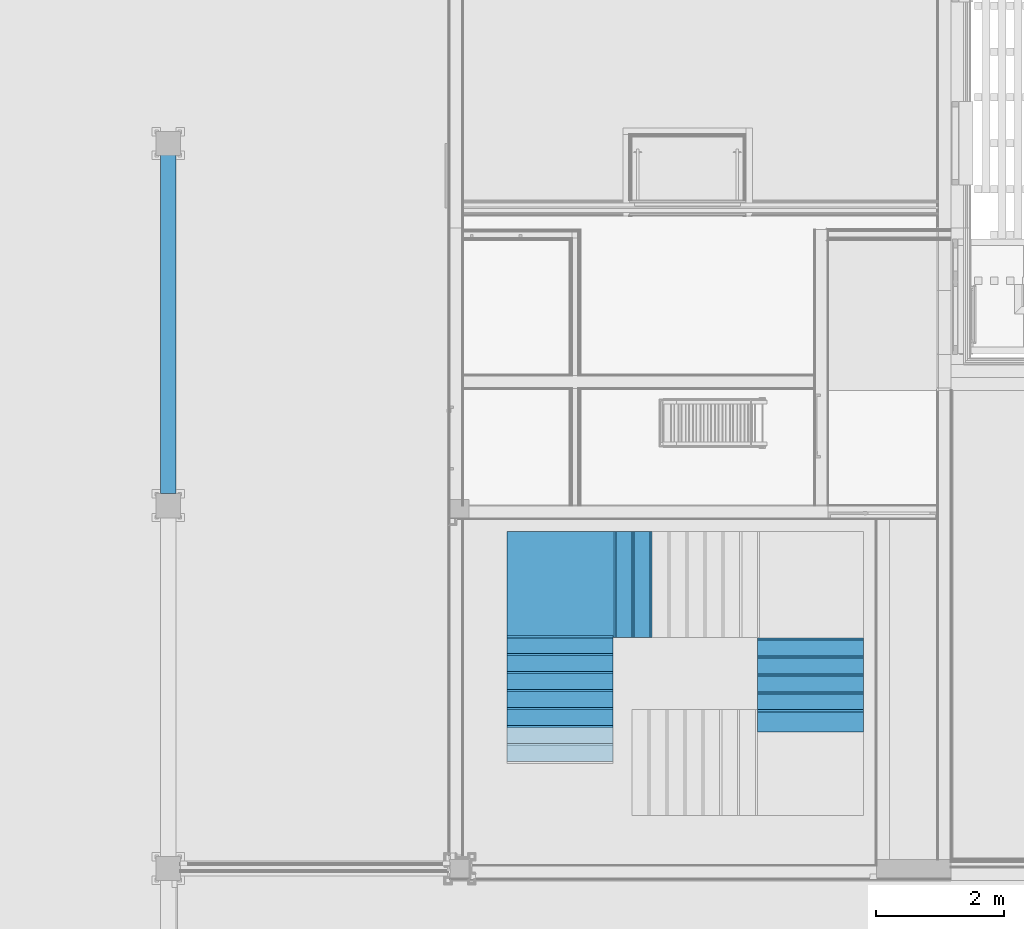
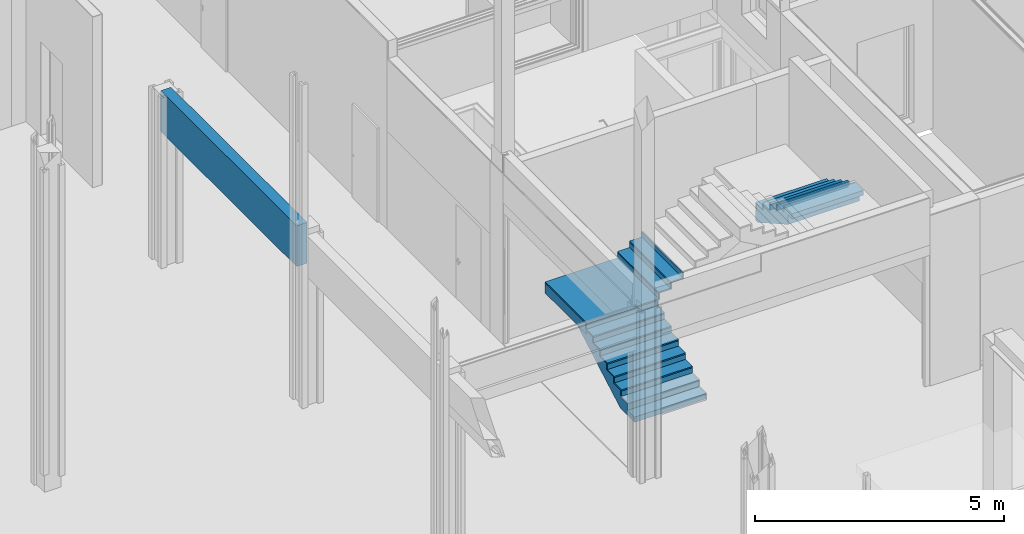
# One storey, part 82 of 260: 29 members, 1 beam, 1 element without a shape of its own.
"""IFC2X3 building model written with IfcOpenShell, lengths in millimetres."""

from ifc_helpers import new_model, entity, si_unit, converted_unit, derived_unit, money_unit, direction, frame, origin_with_axes, place, context, subcontext, project, spatial, faceted_brep, material, type_object, element, aggregate, save


model = new_model("IFC2X3")

# Units and contexts
model_context = context("Model", 3, precision=0.01, world=origin_with_axes(), true_north=direction((0.0, 1.0)))
body_context = subcontext(model_context, "Body", "Model", "MODEL_VIEW")
ifc_project = project(units=[si_unit("LENGTHUNIT", "METRE", prefix="MILLI"), si_unit("AREAUNIT", "SQUARE_METRE"), si_unit("VOLUMEUNIT", "CUBIC_METRE"), converted_unit("PLANEANGLEUNIT", "DEGREE", entity("IfcPlaneAngleMeasure", 0.0174532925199), si_unit("PLANEANGLEUNIT", "RADIAN"), dimensions=[0, 0, 0, 0, 0, 0, 0]), money_unit("EUR"), converted_unit("TIMEUNIT", "Year", entity("IfcTimeMeasure", 31556926.0), si_unit("TIMEUNIT", "SECOND"), dimensions=[0, 0, 1, 0, 0, 0, 0]), si_unit("MASSUNIT", "GRAM", prefix="KILO"), si_unit("THERMODYNAMICTEMPERATUREUNIT", "DEGREE_CELSIUS"), si_unit("LUMINOUSINTENSITYUNIT", "LUMEN"), si_unit("ENERGYUNIT", "JOULE", prefix="MEGA"), derived_unit("THERMALCONDUCTANCEUNIT", [(si_unit("POWERUNIT", "WATT"), 1), (si_unit("LENGTHUNIT", "METRE"), -1), (si_unit("THERMODYNAMICTEMPERATUREUNIT", "KELVIN"), -1)]), derived_unit("SPECIFICHEATCAPACITYUNIT", [(si_unit("ENERGYUNIT", "JOULE"), 1), (si_unit("MASSUNIT", "GRAM", prefix="KILO"), -1), (si_unit("THERMODYNAMICTEMPERATUREUNIT", "KELVIN"), -1)]), derived_unit("MASSDENSITYUNIT", [(si_unit("MASSUNIT", "GRAM", prefix="KILO"), 1), (si_unit("VOLUMEUNIT", "CUBIC_METRE"), -1)])], contexts=[model_context])

# Site, building, storey
site_placement = place(None, origin_with_axes())
site = spatial("IfcSite", under=ifc_project, at=site_placement, Name="Kolde pst 67a", CompositionType="ELEMENT")
building_placement = place(site_placement, origin_with_axes())
building = spatial("IfcBuilding", under=site, at=building_placement, Name="Riigigümnaasium", CompositionType="ELEMENT")
storey_placement = place(building_placement, origin_with_axes())
storey = spatial("IfcBuildingStorey", under=building, at=storey_placement, Name="1. korrus", CompositionType="ELEMENT", Elevation=0.0)

# Stair, members
stair_placement = place(storey_placement, frame((55074.9583238, 31162.4614213, 0.0), z_axis=(0.0, 0.0, 1.0), x_axis=(1.0, 0.0, 0.0)))
stair = element("IfcStair", 1, at=stair_placement, inside=storey, Name="TREPP", ShapeType="NOTDEFINED")
ifc_material_1 = material(Name="_KANDETARIND - raudbetoon C25/30 vastavalt EK osale")
member_type_1 = type_object("IfcMemberType", Name="IfcMember", PredefinedType="USERDEFINED")
member_1_placement = place(stair_placement, origin_with_axes())
member_1 = element("IfcMember", 2, at=member_1_placement, type_object=member_type_1, material=ifc_material_1, Name="TT KONSTRUKTSIOON - 015", ObjectType="Stair Structure", context=body_context, shape_type="Brep", body=[
    faceted_brep([(89.8423685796, -710.230620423, 0.0), (89.8423685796, -146.545943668, 0.0), (89.8423685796, -88.8972870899, 32.6581059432), (89.8423685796, 4.43604624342, 85.5316691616), (89.8423685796, 97.7693795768, 138.40523238), (89.8423685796, 191.10271291, 191.278795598), (89.8423685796, 284.436046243, 244.152358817), (89.8423685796, 377.769379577, 297.025922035), (89.8423685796, 471.10271291, 349.899485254), (89.8423685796, 564.436046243, 402.773048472), (89.8423685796, 657.769379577, 455.64661169), (89.8423685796, 751.10271291, 508.520174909), (89.8423685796, 844.436046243, 561.393738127), (89.8423685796, 937.769379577, 614.267301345), (89.8423685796, 1031.10271291, 667.140864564), (89.8423685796, 1124.43604624, 720.014427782), (89.8423656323, 1217.76937958, 772.887991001), (89.8423656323, 1595.66275198, 986.965517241), (89.8423656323, 1217.76937958, 986.965517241), (89.8423685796, 1217.76937958, 1078.34482759), (89.8423685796, 969.769379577, 1078.34482759), (89.8423685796, 969.769379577, 919.724137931), (89.8423685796, 689.769379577, 919.724137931), (89.8423685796, 689.769379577, 761.103448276), (89.8423685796, 409.769379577, 761.103448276), (89.8423685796, 409.769379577, 602.482758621), (89.8423685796, 129.769379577, 602.482758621), (89.8423685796, 129.769379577, 443.862068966), (89.8423685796, -150.230620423, 443.862068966), (89.8423685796, -150.230620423, 285.24137931), (89.8423685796, -430.230620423, 285.24137931), (89.8423685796, -430.230620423, 126.620689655), (89.8423685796, -710.230620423, 126.620689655), (-1558.12246234, -146.545943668, 0.0), (-1558.12246234, -710.230620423, 0.0), (-1558.12246234, -88.8972870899, 32.6581059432), (-1558.12246234, 4.43604624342, 85.5316691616), (-1558.12246234, 97.7693795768, 138.40523238), (-1558.12246234, 191.10271291, 191.278795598), (-1558.12246234, 284.436046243, 244.152358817), (-1558.12246234, 377.769379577, 297.025922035), (-1558.12246234, 471.10271291, 349.899485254), (-1558.12246234, 564.436046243, 402.773048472), (-1558.12246234, 657.769379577, 455.64661169), (-1558.12246234, 751.10271291, 508.520174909), (-1558.12246234, 844.436046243, 561.393738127), (-1558.12246234, 937.769379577, 614.267301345), (-1558.12246234, 1031.10271291, 667.140864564), (-1558.12246234, 1124.43604624, 720.014427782), (-1558.12246234, 1217.76937958, 772.887991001), (-1558.12246234, 1595.66275198, 986.965517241), (-1558.12246234, 1217.76937958, 986.965517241), (-1558.12246234, 1217.76937958, 1078.34482759), (-1558.12246234, 969.769379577, 1078.34482759), (-1558.12246234, 969.769379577, 919.724137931), (-1558.12246234, 689.769379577, 919.724137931), (-1558.12246234, 689.769379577, 761.103448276), (-1558.12246234, 409.769379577, 761.103448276), (-1558.12246234, 409.769379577, 602.482758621), (-1558.12246234, 129.769379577, 602.482758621), (-1558.12246234, 129.769379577, 443.862068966), (-1558.12246234, -150.230620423, 443.862068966), (-1558.12246234, -150.230620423, 285.24137931), (-1558.12246234, -430.230620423, 285.24137931), (-1558.12246234, -430.230620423, 126.620689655), (-1558.12246234, -710.230620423, 126.620689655)], [[[0, 1, 2, 3, 4, 5, 6, 7, 8, 9, 10, 11, 12, 13, 14, 15, 16, 17, 18, 19, 20, 21, 22, 23, 24, 25, 26, 27, 28, 29, 30, 31, 32]], [[33, 1, 0, 34]], [[1, 33, 35, 2]], [[35, 36, 3, 2]], [[36, 37, 4, 3]], [[37, 38, 5, 4]], [[38, 39, 6, 5]], [[39, 40, 7, 6]], [[40, 41, 8, 7]], [[41, 42, 9, 8]], [[42, 43, 10, 9]], [[43, 44, 11, 10]], [[44, 45, 12, 11]], [[45, 46, 13, 12]], [[46, 47, 14, 13]], [[47, 48, 15, 14]], [[17, 16, 15, 48, 49, 50]], [[50, 51, 18, 17]], [[19, 18, 51, 52]], [[20, 19, 52, 53]], [[20, 53, 54, 21]], [[54, 55, 22, 21]], [[22, 55, 56, 23]], [[56, 57, 24, 23]], [[24, 57, 58, 25]], [[58, 59, 26, 25]], [[26, 59, 60, 27]], [[60, 61, 28, 27]], [[28, 61, 62, 29]], [[62, 63, 30, 29]], [[30, 63, 64, 31]], [[64, 65, 32, 31]], [[34, 0, 32, 65]], [[33, 34, 65, 64, 63, 62, 61, 60, 59, 58, 57, 56, 55, 54, 53, 52, 51, 50, 49, 48, 47, 46, 45, 44, 43, 42, 41, 40, 39, 38, 37, 36, 35]]]),
])
member_2_placement = place(stair_placement, origin_with_axes())
member_2 = element("IfcMember", 3, at=member_2_placement, type_object=member_type_1, material=ifc_material_1, Name="TM KONSTRUKTSIOON - 012", ObjectType="Stair Structure", context=body_context, shape_type="Brep", body=[
    faceted_brep([(110.025712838, 1222.51928989, 1236.96551724), (110.025712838, 2872.51929065, 1236.96551724), (-1558.12246234, 2872.51929065, 1236.96551724), (-1558.12246234, 1249.76938018, 1236.96551724), (89.8423548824, 1249.76938018, 1236.96551724), (89.8423560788, 1222.51928989, 1236.96551724), (110.025712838, 2872.51929065, 986.965517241), (110.025712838, 1222.51928989, 986.965517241), (-1558.12246234, 2872.51929065, 986.965517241), (-1558.12246234, 1217.76937958, 1078.34482759), (-1558.12246234, 1249.76938018, 1078.34482759), (-1558.12246234, 1217.76937958, 986.965517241), (89.8423548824, 1249.76938018, 1078.34482759), (89.8423560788, 1222.51928989, 1078.34482759), (89.8423656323, 1222.51928989, 986.965517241), (89.8423656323, 1217.76937958, 986.965517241), (89.8423562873, 1217.76937958, 1078.34482759)], [[[0, 1, 2, 3, 4, 5]], [[6, 1, 0, 7]], [[1, 6, 8, 2]], [[9, 10, 3, 2, 8, 11]], [[12, 4, 3, 10]], [[13, 5, 4, 12]], [[7, 0, 5, 13, 14]], [[6, 7, 14, 15, 11, 8]], [[9, 16, 13, 12, 10]], [[15, 16, 9, 11]], [[14, 13, 16, 15]]]),
])
member_3_placement = place(stair_placement, origin_with_axes())
member_3 = element("IfcMember", 4, at=member_3_placement, type_object=member_type_1, material=ifc_material_1, Name="TT KONSTRUKTSIOON - 017", ObjectType="Stair Structure", context=body_context, shape_type="Brep", body=[
    faceted_brep([(4000.02571284, 343.0, 3140.4137931), (2350.02571284, 343.0, 3140.4137931), (2350.02571284, 343.0, 3299.03448276), (4000.02571284, 343.0, 3299.03448276), (4000.02571284, 623.0, 3140.4137931), (2350.02571284, 623.0, 3140.4137931), (2350.02570096, 94.9999981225, 3299.03448276), (2350.02571284, 623.0, 2981.79310345), (2350.02571284, 903.0, 2981.79310345), (2350.02571284, 903.0, 2823.17241379), (2350.02571284, 1183.0, 2823.17241379), (2350.02571284, 1183.0, 2664.55172414), (2350.02571284, 1215.0, 2664.55172414), (2350.02571284, 1215.0, 2414.55172414), (2350.02571284, 1117.10662759, 2414.55172414), (2350.02571284, 1028.33333333, 2464.84201399), (2350.02571284, 935.0, 2517.71557721), (2350.02571284, 841.666666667, 2570.58914043), (2350.02571284, 748.333333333, 2623.46270364), (2350.02571284, 655.0, 2676.33626686), (2350.02571284, 561.666666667, 2729.20983008), (2350.02571284, 468.333333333, 2782.0833933), (2350.02571284, 375.0, 2834.95695652), (2350.02571284, 281.666666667, 2887.83051974), (2350.02571284, 188.333333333, 2940.70408295), (2350.02571472, 94.9999981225, 2993.57764724), (2350.02571472, -95.0000018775, 3101.21311522), (2350.02570967, -95.0000018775, 3337.65517241), (2350.02571472, -255.000008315, 3337.65517241), (2350.02571472, -255.000008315, 3457.65517241), (2350.02569961, 63.0000026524, 3457.65517241), (2350.02569961, 63.0000026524, 3299.03448276), (4000.02571685, 94.9999981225, 3299.03448276), (4000.02571731, 63.0000026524, 3299.03448276), (4000.02571284, 94.9999981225, 2993.57764724), (4000.02571284, 188.333333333, 2940.70408295), (4000.02571284, 281.666666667, 2887.83051974), (4000.02571284, 375.0, 2834.95695652), (4000.02571284, 468.333333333, 2782.0833933), (4000.02571284, 561.666666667, 2729.20983008), (4000.02571284, 655.0, 2676.33626686), (4000.02571284, 748.333333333, 2623.46270364), (4000.02571284, 841.666666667, 2570.58914043), (4000.02571284, 935.0, 2517.71557721), (4000.02571284, 1028.33333333, 2464.84201399), (4000.02571284, 1117.10662759, 2414.55172414), (4000.02571284, 1215.0, 2414.55172414), (4000.02571284, 1215.0, 2664.55172414), (4000.02571284, 1183.0, 2664.55172414), (4000.02571284, 1183.0, 2823.17241379), (4000.02571284, 903.0, 2823.17241379), (4000.02571284, 903.0, 2981.79310345), (4000.02571284, 623.0, 2981.79310345), (4000.02571731, 63.0000026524, 3457.65517241), (4000.02571284, -255.000008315, 3457.65517241), (4000.02571284, -255.000008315, 3337.65517241), (4000.02571433, -95.0000018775, 3337.65517241), (4000.02571284, -95.0000018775, 3101.21311522)], [[[0, 1, 2, 3]], [[0, 4, 5, 1]], [[6, 2, 1, 5, 7, 8, 9, 10, 11, 12, 13, 14, 15, 16, 17, 18, 19, 20, 21, 22, 23, 24, 25, 26, 27, 28, 29, 30, 31]], [[32, 3, 2, 6, 31, 33]], [[34, 35, 36, 37, 38, 39, 40, 41, 42, 43, 44, 45, 46, 47, 48, 49, 50, 51, 52, 4, 0, 3, 32, 33, 53, 54, 55, 56, 57]], [[52, 7, 5, 4]], [[52, 51, 8, 7]], [[50, 9, 8, 51]], [[50, 49, 10, 9]], [[48, 11, 10, 49]], [[12, 11, 48, 47]], [[46, 13, 12, 47]], [[13, 46, 45, 14]], [[14, 45, 44, 15]], [[15, 44, 43, 16]], [[16, 43, 42, 17]], [[17, 42, 41, 18]], [[18, 41, 40, 19]], [[19, 40, 39, 20]], [[20, 39, 38, 21]], [[21, 38, 37, 22]], [[22, 37, 36, 23]], [[23, 36, 35, 24]], [[25, 24, 35, 34, 57, 26]], [[26, 57, 56, 27]], [[27, 56, 55, 28]], [[29, 28, 55, 54]], [[29, 54, 53, 30]], [[33, 31, 30, 53]]]),
])
ifc_material_2 = material(Name="_VIIMISTLUSKIHT - viimistlus vastavalt SA osale")
member_type_2 = type_object("IfcMemberType", Name="IfcMember", PredefinedType="USERDEFINED")
member_4_placement = place(stair_placement, frame((-735.15763142, -182.230620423, 443.862068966), z_axis=(0.0, 0.0, 1.0), x_axis=(1.0, 0.0, 0.0)))
member_4 = element("IfcMember", 5, at=member_4_placement, type_object=member_type_2, material=ifc_material_2, Name="TV TÕUS - 112", ObjectType="Stair Riser", context=body_context, shape_type="Brep", body=[
    faceted_brep([(825.0, 0.0, 0.0), (825.0, 32.0, 0.0), (-822.964830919, 32.0, 0.0), (-822.964830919, 0.0, 0.0), (825.0, 0.0, -126.620689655), (825.0, 32.0, -126.620689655), (-822.964830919, 32.0, -126.620689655), (-822.964830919, 0.0, -126.620689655)], [[[0, 1, 2, 3]], [[0, 4, 5, 1]], [[1, 5, 6, 2]], [[3, 2, 6, 7]], [[4, 0, 3, 7]], [[5, 4, 7, 6]]]),
])
member_5_placement = place(stair_placement, frame((-735.15763142, 97.7693795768, 602.482758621), z_axis=(0.0, 0.0, 1.0), x_axis=(1.0, 0.0, 0.0)))
member_5 = element("IfcMember", 6, at=member_5_placement, type_object=member_type_2, material=ifc_material_2, Name="TV TÕUS - 113", ObjectType="Stair Riser", context=body_context, shape_type="Brep", body=[
    faceted_brep([(825.0, 0.0, 0.0), (825.0, 32.0, 0.0), (-822.964830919, 32.0, 0.0), (-822.964830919, 0.0, 0.0), (825.0, 0.0, -126.620689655), (825.0, 32.0, -126.620689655), (-822.964830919, 32.0, -126.620689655), (-822.964830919, 0.0, -126.620689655)], [[[0, 1, 2, 3]], [[0, 4, 5, 1]], [[1, 5, 6, 2]], [[3, 2, 6, 7]], [[4, 0, 3, 7]], [[5, 4, 7, 6]]]),
])
member_6_placement = place(stair_placement, frame((-735.15763142, 377.769379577, 761.103448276), z_axis=(0.0, 0.0, 1.0), x_axis=(1.0, 0.0, 0.0)))
member_6 = element("IfcMember", 7, at=member_6_placement, type_object=member_type_2, material=ifc_material_2, Name="TV TÕUS - 114", ObjectType="Stair Riser", context=body_context, shape_type="Brep", body=[
    faceted_brep([(825.0, 0.0, 0.0), (825.0, 32.0, 0.0), (-822.964830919, 32.0, 0.0), (-822.964830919, 0.0, 0.0), (825.0, 0.0, -126.620689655), (825.0, 32.0, -126.620689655), (-822.964830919, 32.0, -126.620689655), (-822.964830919, 0.0, -126.620689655)], [[[0, 1, 2, 3]], [[0, 4, 5, 1]], [[1, 5, 6, 2]], [[3, 2, 6, 7]], [[4, 0, 3, 7]], [[5, 4, 7, 6]]]),
])
member_7_placement = place(stair_placement, frame((-735.15763142, 657.769379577, 919.724137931), z_axis=(0.0, 0.0, 1.0), x_axis=(1.0, 0.0, 0.0)))
member_7 = element("IfcMember", 8, at=member_7_placement, type_object=member_type_2, material=ifc_material_2, Name="TV TÕUS - 115", ObjectType="Stair Riser", context=body_context, shape_type="Brep", body=[
    faceted_brep([(825.0, 0.0, 0.0), (825.0, 32.0, 0.0), (-822.964830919, 32.0, 0.0), (-822.964830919, 0.0, 0.0), (825.0, 0.0, -126.620689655), (825.0, 32.0, -126.620689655), (-822.964830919, 32.0, -126.620689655), (-822.964830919, 0.0, -126.620689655)], [[[0, 1, 2, 3]], [[0, 4, 5, 1]], [[1, 5, 6, 2]], [[3, 2, 6, 7]], [[4, 0, 3, 7]], [[5, 4, 7, 6]]]),
])
member_8_placement = place(stair_placement, frame((-735.15763142, 937.769379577, 1078.34482759), z_axis=(0.0, 0.0, 1.0), x_axis=(1.0, 0.0, 0.0)))
member_8 = element("IfcMember", 9, at=member_8_placement, type_object=member_type_2, material=ifc_material_2, Name="TV TÕUS - 116", ObjectType="Stair Riser", context=body_context, shape_type="Brep", body=[
    faceted_brep([(825.0, 0.0, 0.0), (825.0, 32.0, 0.0), (-822.964830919, 32.0, 0.0), (-822.964830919, 0.0, 0.0), (825.0, 0.0, -126.620689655), (825.0, 32.0, -126.620689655), (-822.964830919, 32.0, -126.620689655), (-822.964830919, 0.0, -126.620689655)], [[[0, 1, 2, 3]], [[0, 4, 5, 1]], [[1, 5, 6, 2]], [[3, 2, 6, 7]], [[4, 0, 3, 7]], [[5, 4, 7, 6]]]),
])
member_9_placement = place(stair_placement, frame((-735.15763142, 1217.76937958, 1236.96551724), z_axis=(0.0, 0.0, 1.0), x_axis=(1.0, 0.0, 0.0)))
member_9 = element("IfcMember", 10, at=member_9_placement, type_object=member_type_2, material=ifc_material_2, Name="SL RISER - 012", ObjectType="Stair Riser", context=body_context, shape_type="Brep", body=[
    faceted_brep([(825.0, 0.0, 0.0), (825.0, 32.0, 0.0), (-822.964830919, 32.0, 0.0), (-822.964830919, 0.0, 0.0), (825.0, 0.0, -126.620689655), (825.0, 32.0, -126.620689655), (-822.964830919, 32.0, -126.620689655), (-822.964830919, 0.0, -126.620689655)], [[[0, 1, 2, 3]], [[0, 4, 5, 1]], [[1, 5, 6, 2]], [[3, 2, 6, 7]], [[4, 0, 3, 7]], [[5, 4, 7, 6]]]),
])
member_10_placement = place(stair_placement, frame((110.025712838, 2047.51928463, 1395.5862069), z_axis=(0.0, 0.0, 1.0), x_axis=(0.0, -1.0, 0.0)))
member_10 = element("IfcMember", 11, at=member_10_placement, type_object=member_type_2, material=ifc_material_2, Name="TV TÕUS - 117", ObjectType="Stair Riser", context=body_context, shape_type="Brep", body=[
    faceted_brep([(825.0, 0.0, 0.0), (825.0, 32.0, 0.0), (-825.0, 32.0, 0.0), (-825.0, 0.0, 0.0), (825.0, 0.0, -126.620689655), (825.0, 32.0, -126.620689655), (-825.0, 32.0, -126.620689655), (-825.0, 0.0, -126.620689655)], [[[0, 1, 2, 3]], [[0, 4, 5, 1]], [[1, 5, 6, 2]], [[3, 2, 6, 7]], [[4, 0, 3, 7]], [[5, 4, 7, 6]]]),
])
member_11_placement = place(stair_placement, frame((390.025712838, 2047.51928463, 1554.20689655), z_axis=(0.0, 0.0, 1.0), x_axis=(0.0, -1.0, 0.0)))
member_11 = element("IfcMember", 12, at=member_11_placement, type_object=member_type_2, material=ifc_material_2, Name="TV TÕUS - 118", ObjectType="Stair Riser", context=body_context, shape_type="Brep", body=[
    faceted_brep([(825.0, 0.0, 0.0), (825.0, 32.0, 0.0), (-825.0, 32.0, 0.0), (-825.0, 0.0, 0.0), (825.0, 0.0, -126.620689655), (825.0, 32.0, -126.620689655), (-825.0, 32.0, -126.620689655), (-825.0, 0.0, -126.620689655)], [[[0, 1, 2, 3]], [[0, 4, 5, 1]], [[1, 5, 6, 2]], [[3, 2, 6, 7]], [[4, 0, 3, 7]], [[5, 4, 7, 6]]]),
])
member_12_placement = place(stair_placement, frame((670.025712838, 2047.51928463, 1712.82758621), z_axis=(0.0, 0.0, 1.0), x_axis=(0.0, -1.0, 0.0)))
member_12 = element("IfcMember", 13, at=member_12_placement, type_object=member_type_2, material=ifc_material_2, Name="TV TÕUS - 119", ObjectType="Stair Riser", context=body_context, shape_type="Brep", body=[
    faceted_brep([(825.0, 0.0, 0.0), (825.0, 32.0, 0.0), (-825.0, 32.0, 0.0), (-825.0, 0.0, 0.0), (825.0, 0.0, -126.620689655), (825.0, 32.0, -126.620689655), (-825.0, 32.0, -126.620689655), (-825.0, 0.0, -126.620689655)], [[[0, 1, 2, 3]], [[0, 4, 5, 1]], [[1, 5, 6, 2]], [[3, 2, 6, 7]], [[4, 0, 3, 7]], [[5, 4, 7, 6]]]),
])
member_13_placement = place(stair_placement, frame((3175.02571284, 1215.0, 2823.17241379), z_axis=(0.0, 0.0, 1.0), x_axis=(-1.0, 0.0, 0.0)))
member_13 = element("IfcMember", 14, at=member_13_placement, type_object=member_type_2, material=ifc_material_2, Name="TV TÕUS - 125", ObjectType="Stair Riser", context=body_context, shape_type="Brep", body=[
    faceted_brep([(825.0, 0.0, 0.0), (825.0, 32.0, 0.0), (-825.0, 32.0, 0.0), (-825.0, 0.0, 0.0), (825.0, 0.0, -126.620689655), (825.0, 32.0, -126.620689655), (-825.0, 32.0, -126.620689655), (-825.0, 0.0, -126.620689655)], [[[0, 1, 2, 3]], [[0, 4, 5, 1]], [[1, 5, 6, 2]], [[3, 2, 6, 7]], [[4, 0, 3, 7]], [[5, 4, 7, 6]]]),
])
member_14_placement = place(stair_placement, frame((3175.02571284, 935.0, 2981.79310345), z_axis=(0.0, 0.0, 1.0), x_axis=(-1.0, 0.0, 0.0)))
member_14 = element("IfcMember", 15, at=member_14_placement, type_object=member_type_2, material=ifc_material_2, Name="TV TÕUS - 126", ObjectType="Stair Riser", context=body_context, shape_type="Brep", body=[
    faceted_brep([(825.0, 0.0, 0.0), (825.0, 32.0, 0.0), (-825.0, 32.0, 0.0), (-825.0, 0.0, 0.0), (825.0, 0.0, -126.620689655), (825.0, 32.0, -126.620689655), (-825.0, 32.0, -126.620689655), (-825.0, 0.0, -126.620689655)], [[[0, 1, 2, 3]], [[0, 4, 5, 1]], [[1, 5, 6, 2]], [[3, 2, 6, 7]], [[4, 0, 3, 7]], [[5, 4, 7, 6]]]),
])
member_15_placement = place(stair_placement, frame((3175.02571284, 655.0, 3140.4137931), z_axis=(0.0, 0.0, 1.0), x_axis=(-1.0, 0.0, 0.0)))
member_15 = element("IfcMember", 16, at=member_15_placement, type_object=member_type_2, material=ifc_material_2, Name="TV TÕUS - 127", ObjectType="Stair Riser", context=body_context, shape_type="Brep", body=[
    faceted_brep([(825.0, 0.0, 0.0), (825.0, 32.0, 0.0), (-825.0, 32.0, 0.0), (-825.0, 0.0, 0.0), (825.0, 0.0, -126.620689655), (825.0, 32.0, -126.620689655), (-825.0, 32.0, -126.620689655), (-825.0, 0.0, -126.620689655)], [[[0, 1, 2, 3]], [[0, 4, 5, 1]], [[1, 5, 6, 2]], [[3, 2, 6, 7]], [[4, 0, 3, 7]], [[5, 4, 7, 6]]]),
])
member_16_placement = place(stair_placement, frame((3175.02571284, 375.0, 3299.03448276), z_axis=(0.0, 0.0, 1.0), x_axis=(-1.0, 0.0, 0.0)))
member_16 = element("IfcMember", 17, at=member_16_placement, type_object=member_type_2, material=ifc_material_2, Name="TV TÕUS - 128", ObjectType="Stair Riser", context=body_context, shape_type="Brep", body=[
    faceted_brep([(825.0, 0.0, 0.0), (825.0, 32.0, 0.0), (-825.0, 32.0, 0.0), (-825.0, 0.0, 0.0), (825.0, 0.0, -126.620689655), (825.0, 32.0, -126.620689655), (-825.0, 32.0, -126.620689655), (-825.0, 0.0, -126.620689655)], [[[0, 1, 2, 3]], [[0, 4, 5, 1]], [[1, 5, 6, 2]], [[3, 2, 6, 7]], [[4, 0, 3, 7]], [[5, 4, 7, 6]]]),
])
member_17_placement = place(stair_placement, frame((3175.02571284, 95.0, 3457.65517241), z_axis=(0.0, 0.0, 1.0), x_axis=(-1.0, 0.0, 0.0)))
member_17 = element("IfcMember", 18, at=member_17_placement, type_object=member_type_2, material=ifc_material_2, Name="SL RISER - 014", ObjectType="Stair Riser", context=body_context, shape_type="Brep", body=[
    faceted_brep([(825.0, 0.0, 0.0), (825.0, 32.0, 0.0), (-825.0, 32.0, 0.0), (-825.0, 0.0, 0.0), (825.0, 0.0, -126.620689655), (825.0, 32.0, -126.620689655), (-825.0, 32.0, -126.620689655), (-825.0, 0.0, -126.620689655)], [[[0, 1, 2, 3]], [[0, 4, 5, 1]], [[1, 5, 6, 2]], [[3, 2, 6, 7]], [[4, 0, 3, 7]], [[5, 4, 7, 6]]]),
])
member_type_3 = type_object("IfcMemberType", Name="IfcMember", PredefinedType="USERDEFINED")
member_18_placement = place(stair_placement, frame((-735.15763142, -182.230620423, 475.862068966), z_axis=(0.0, 0.0, 1.0), x_axis=(1.0, 0.0, 0.0)))
member_18 = element("IfcMember", 19, at=member_18_placement, type_object=member_type_3, material=ifc_material_2, Name="TV ASTE - 112", ObjectType="Stair Tread", context=body_context, shape_type="Brep", body=[
    faceted_brep([(-822.964830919, 0.0, -32.0), (825.0, 0.0, -32.0), (825.0, 0.0, 0.0), (-822.964830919, 0.0, 0.0), (-822.964830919, 311.999994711, -32.0), (825.0, 311.999994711, -32.0), (825.0, 311.999994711, 0.0), (-822.964830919, 311.999994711, 0.0)], [[[0, 1, 2, 3]], [[0, 4, 5, 1]], [[1, 5, 6, 2]], [[3, 2, 6, 7]], [[4, 0, 3, 7]], [[5, 4, 7, 6]]]),
])
member_19_placement = place(stair_placement, frame((-735.15763142, 97.7693795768, 634.482758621), z_axis=(0.0, 0.0, 1.0), x_axis=(1.0, 0.0, 0.0)))
member_19 = element("IfcMember", 20, at=member_19_placement, type_object=member_type_3, material=ifc_material_2, Name="TV ASTE - 113", ObjectType="Stair Tread", context=body_context, shape_type="Brep", body=[
    faceted_brep([(-822.964830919, 0.0, -32.0), (825.0, 0.0, -32.0), (825.0, 0.0, 0.0), (-822.964830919, 0.0, 0.0), (-822.964830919, 311.999994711, -32.0), (825.0, 311.999994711, -32.0), (825.0, 311.999994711, 0.0), (-822.964830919, 311.999994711, 0.0)], [[[0, 1, 2, 3]], [[0, 4, 5, 1]], [[1, 5, 6, 2]], [[3, 2, 6, 7]], [[4, 0, 3, 7]], [[5, 4, 7, 6]]]),
])
member_20_placement = place(stair_placement, frame((-735.15763142, 377.769379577, 793.103448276), z_axis=(0.0, 0.0, 1.0), x_axis=(1.0, 0.0, 0.0)))
member_20 = element("IfcMember", 21, at=member_20_placement, type_object=member_type_3, material=ifc_material_2, Name="TV ASTE - 114", ObjectType="Stair Tread", context=body_context, shape_type="Brep", body=[
    faceted_brep([(-822.964830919, 0.0, -32.0), (825.0, 0.0, -32.0), (825.0, 0.0, 0.0), (-822.964830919, 0.0, 0.0), (-822.964830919, 311.999994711, -32.0), (825.0, 311.999994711, -32.0), (825.0, 311.999994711, 0.0), (-822.964830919, 311.999994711, 0.0)], [[[0, 1, 2, 3]], [[0, 4, 5, 1]], [[1, 5, 6, 2]], [[3, 2, 6, 7]], [[4, 0, 3, 7]], [[5, 4, 7, 6]]]),
])
member_21_placement = place(stair_placement, frame((-735.15763142, 657.769379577, 951.724137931), z_axis=(0.0, 0.0, 1.0), x_axis=(1.0, 0.0, 0.0)))
member_21 = element("IfcMember", 22, at=member_21_placement, type_object=member_type_3, material=ifc_material_2, Name="TV ASTE - 115", ObjectType="Stair Tread", context=body_context, shape_type="Brep", body=[
    faceted_brep([(-822.964830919, 0.0, -32.0), (825.0, 0.0, -32.0), (825.0, 0.0, 0.0), (-822.964830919, 0.0, 0.0), (-822.964830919, 311.999994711, -32.0), (825.0, 311.999994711, -32.0), (825.0, 311.999994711, 0.0), (-822.964830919, 311.999994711, 0.0)], [[[0, 1, 2, 3]], [[0, 4, 5, 1]], [[1, 5, 6, 2]], [[3, 2, 6, 7]], [[4, 0, 3, 7]], [[5, 4, 7, 6]]]),
])
member_22_placement = place(stair_placement, frame((-735.15763142, 937.769379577, 1110.34482759), z_axis=(0.0, 0.0, 1.0), x_axis=(1.0, 0.0, 0.0)))
member_22 = element("IfcMember", 23, at=member_22_placement, type_object=member_type_3, material=ifc_material_2, Name="TV ASTE - 116", ObjectType="Stair Tread", context=body_context, shape_type="Brep", body=[
    faceted_brep([(-822.964830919, 0.0, -32.0), (825.0, 0.0, -32.0), (825.0, 0.0, 0.0), (-822.964830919, 0.0, 0.0), (-822.964830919, 311.999994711, -32.0), (825.0, 311.999994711, -32.0), (825.0, 280.000002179, -32.0), (825.0, 280.000002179, 0.0), (825.0, 311.999994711, 0.0), (-822.964830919, 311.999994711, 0.0)], [[[0, 1, 2, 3]], [[0, 4, 5, 6, 1]], [[1, 6, 7, 2]], [[3, 2, 7, 8, 9]], [[4, 0, 3, 9]], [[5, 4, 9, 8]], [[6, 5, 8, 7]]]),
])
member_23_placement = place(stair_placement, frame((-735.15763142, 1217.76937958, 1268.96551724), z_axis=(0.0, 0.0, 1.0), x_axis=(1.0, 0.0, 0.0)))
member_23 = element("IfcMember", 24, at=member_23_placement, type_object=member_type_3, material=ifc_material_2, Name="SL TREAD - 012", ObjectType="Stair Tread", context=body_context, shape_type="Brep", body=[
    faceted_brep([(-822.964830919, 0.0, -32.0), (825.0, 0.0, -32.0), (825.0, 0.0, 0.0), (-822.964830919, 0.0, 0.0), (-822.964830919, 1654.74990505, -32.0), (877.183344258, 1654.74990505, -32.0), (877.183344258, 4.74990505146, -32.0), (825.0, 4.74990505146, -32.0), (825.0, 4.74990505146, 0.0), (877.183344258, 4.74990505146, 0.0), (877.183344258, 1654.74990505, 0.0), (-822.964830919, 1654.74990505, 0.0)], [[[0, 1, 2, 3]], [[0, 4, 5, 6, 7, 1]], [[1, 7, 8, 2]], [[3, 2, 8, 9, 10, 11]], [[4, 0, 3, 11]], [[5, 4, 11, 10]], [[6, 5, 10, 9]], [[7, 6, 9, 8]]]),
])
member_24_placement = place(stair_placement, frame((110.025712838, 2047.51928463, 1427.5862069), z_axis=(0.0, 0.0, 1.0), x_axis=(0.0, -1.0, 0.0)))
member_24 = element("IfcMember", 25, at=member_24_placement, type_object=member_type_3, material=ifc_material_2, Name="TV ASTE - 117", ObjectType="Stair Tread", context=body_context, shape_type="Brep", body=[
    faceted_brep([(-825.0, 0.0, -32.0), (825.0, 0.0, -32.0), (825.0, 0.0, 0.0), (-825.0, 0.0, 0.0), (-825.0, 312.0, -32.0), (825.0, 312.0, -32.0), (825.0, 312.0, 0.0), (-825.0, 312.0, 0.0)], [[[0, 1, 2, 3]], [[0, 4, 5, 1]], [[1, 5, 6, 2]], [[3, 2, 6, 7]], [[4, 0, 3, 7]], [[5, 4, 7, 6]]]),
])
member_25_placement = place(stair_placement, frame((390.025712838, 2047.51928463, 1586.20689655), z_axis=(0.0, 0.0, 1.0), x_axis=(0.0, -1.0, 0.0)))
member_25 = element("IfcMember", 26, at=member_25_placement, type_object=member_type_3, material=ifc_material_2, Name="TV ASTE - 118", ObjectType="Stair Tread", context=body_context, shape_type="Brep", body=[
    faceted_brep([(-825.0, 0.0, -32.0), (825.0, 0.0, -32.0), (825.0, 0.0, 0.0), (-825.0, 0.0, 0.0), (-825.0, 312.0, -32.0), (825.0, 312.0, -32.0), (825.0, 312.0, 0.0), (-825.0, 312.0, 0.0)], [[[0, 1, 2, 3]], [[0, 4, 5, 1]], [[1, 5, 6, 2]], [[3, 2, 6, 7]], [[4, 0, 3, 7]], [[5, 4, 7, 6]]]),
])
member_26_placement = place(stair_placement, frame((3175.02571284, 1215.0, 2855.17241379), z_axis=(0.0, 0.0, 1.0), x_axis=(-1.0, 0.0, 0.0)))
member_26 = element("IfcMember", 27, at=member_26_placement, type_object=member_type_3, material=ifc_material_2, Name="TV ASTE - 125", ObjectType="Stair Tread", context=body_context, shape_type="Brep", body=[
    faceted_brep([(-825.0, 0.0, -32.0), (825.0, 0.0, -32.0), (825.0, 0.0, 0.0), (-825.0, 0.0, 0.0), (-825.0, 312.0, -32.0), (825.0, 312.0, -32.0), (825.0, 312.0, 0.0), (-825.0, 312.0, 0.0)], [[[0, 1, 2, 3]], [[0, 4, 5, 1]], [[1, 5, 6, 2]], [[3, 2, 6, 7]], [[4, 0, 3, 7]], [[5, 4, 7, 6]]]),
])
member_27_placement = place(stair_placement, frame((3175.02571284, 935.0, 3013.79310345), z_axis=(0.0, 0.0, 1.0), x_axis=(-1.0, 0.0, 0.0)))
member_27 = element("IfcMember", 28, at=member_27_placement, type_object=member_type_3, material=ifc_material_2, Name="TV ASTE - 126", ObjectType="Stair Tread", context=body_context, shape_type="Brep", body=[
    faceted_brep([(-825.0, 0.0, -32.0), (825.0, 0.0, -32.0), (825.0, 0.0, 0.0), (-825.0, 0.0, 0.0), (-825.0, 312.0, -32.0), (825.0, 312.0, -32.0), (825.0, 312.0, 0.0), (-825.0, 312.0, 0.0)], [[[0, 1, 2, 3]], [[0, 4, 5, 1]], [[1, 5, 6, 2]], [[3, 2, 6, 7]], [[4, 0, 3, 7]], [[5, 4, 7, 6]]]),
])
member_28_placement = place(stair_placement, frame((3175.02571284, 655.0, 3172.4137931), z_axis=(0.0, 0.0, 1.0), x_axis=(-1.0, 0.0, 0.0)))
member_28 = element("IfcMember", 29, at=member_28_placement, type_object=member_type_3, material=ifc_material_2, Name="TV ASTE - 127", ObjectType="Stair Tread", context=body_context, shape_type="Brep", body=[
    faceted_brep([(-825.0, 0.0, -32.0), (825.0, 0.0, -32.0), (825.0, 0.0, 0.0), (-825.0, 0.0, 0.0), (-825.0, 312.0, -32.0), (825.0, 312.0, -32.0), (825.0, 312.0, 0.0), (-825.0, 312.0, 0.0)], [[[0, 1, 2, 3]], [[0, 4, 5, 1]], [[1, 5, 6, 2]], [[3, 2, 6, 7]], [[4, 0, 3, 7]], [[5, 4, 7, 6]]]),
])
member_29_placement = place(stair_placement, frame((3175.02571284, 375.0, 3331.03448276), z_axis=(0.0, 0.0, 1.0), x_axis=(-1.0, 0.0, 0.0)))
member_29 = element("IfcMember", 30, at=member_29_placement, type_object=member_type_3, material=ifc_material_2, Name="TV ASTE - 128", ObjectType="Stair Tread", context=body_context, shape_type="Brep", body=[
    faceted_brep([(-825.0, 0.0, -32.0), (825.0, 0.0, -32.0), (825.0, 0.0, 0.0), (-825.0, 0.0, 0.0), (-825.0, 312.0, -32.0), (825.0, 312.0, -32.0), (825.0, 280.0, -32.0), (825.0, 280.0, 0.0), (825.0, 312.0, 0.0), (-825.0, 312.0, 0.0)], [[[0, 1, 2, 3]], [[0, 4, 5, 6, 1]], [[1, 6, 7, 2]], [[3, 2, 7, 8, 9]], [[4, 0, 3, 9]], [[5, 4, 9, 8]], [[6, 5, 8, 7]]]),
])
aggregate(stair, [member_1, member_2, member_3, member_4, member_5, member_6, member_7, member_8, member_9, member_10, member_11, member_12, member_13, member_14, member_15, member_16, member_17, member_18, member_19, member_20, member_21, member_22, member_23, member_24, member_25, member_26, member_27, member_28, member_29])

# Beam
ifc_material_3 = material(Name="_KANDETARIND - liimpuit vastavalt EK osale")
beam_type = type_object("IfcBeamType", Name="_KANDETARIND - liimpuit vastavalt EK osale 240 x 1000", PredefinedType="BEAM")
beam_placement = place(storey_placement, frame((48229.9854607, 40089.9999168, 3670.0), z_axis=(0.0, 0.0, 1.0), x_axis=(-1.0, 0.0, 0.0)))
element("IfcBeam", 31, at=beam_placement, inside=storey, type_object=beam_type, material=ifc_material_3, Name="Tala", ObjectType="BEAM", context=body_context, shape_type="Brep", body=[
    faceted_brep([(120.0, 0.0, 500.0), (120.0, 5459.99994389, 500.0), (-120.0, 5459.99994389, 500.0), (-120.0, 0.0, 500.0), (120.0, 0.0, -500.0), (120.0, 5459.99994389, -500.0), (-120.0, 5459.99994389, -500.0), (-120.0, 0.0, -500.0)], [[[0, 1, 2, 3]], [[4, 5, 1, 0]], [[2, 1, 5, 6]], [[3, 2, 6, 7]], [[4, 0, 3, 7]], [[7, 6, 5, 4]]]),
])

save(model, "model.ifc")
